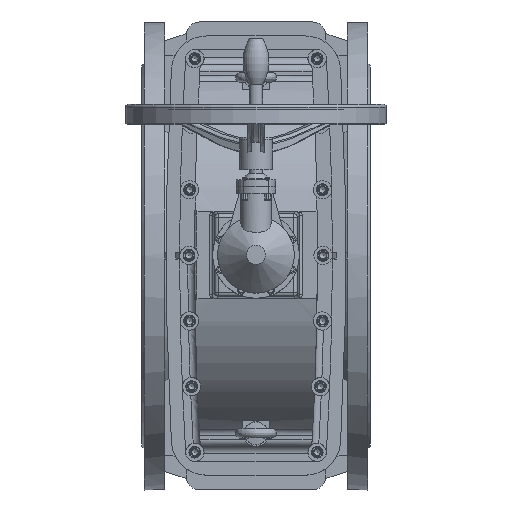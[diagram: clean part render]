
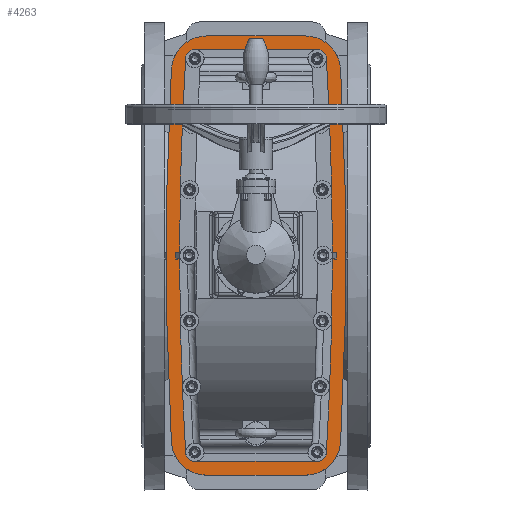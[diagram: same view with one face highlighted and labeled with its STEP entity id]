
A CAD part, top view. The second image highlights one B-rep face of the part: STEP entity #4263.
In plain terms, the highlighted planar face has unit normal (0, 0, 1).
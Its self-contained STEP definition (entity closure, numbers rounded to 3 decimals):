
#4263=ADVANCED_FACE('',(#11177,#11179),#11181,.T.);
#11177=FACE_BOUND('',#11178,.T.);
#11178=EDGE_LOOP('',(#32542,#32543,#32544,#32545,#32546,#32547,#32548,#32549));
#11179=FACE_BOUND('',#11180,.T.);
#11180=EDGE_LOOP('',(#32550,#32551,#32552,#32553,#32554,#32555,#32556,#32557,#32558,
#32559,#32560,#32561,#32562,#32563,#32564,#32565));
#11181=PLANE('',#11182);
#11182=AXIS2_PLACEMENT_3D('',#11183,#11184,#11185);
#11183=CARTESIAN_POINT('',(0.,0.,458.696));
#11184=DIRECTION('',(0.,0.,1.));
#11185=DIRECTION('',(-1.,0.,0.));
#32542=ORIENTED_EDGE('',*,*,#37260,.T.);
#32543=ORIENTED_EDGE('',*,*,#37258,.T.);
#32544=ORIENTED_EDGE('',*,*,#37256,.T.);
#32545=ORIENTED_EDGE('',*,*,#37254,.T.);
#32546=ORIENTED_EDGE('',*,*,#37252,.T.);
#32547=ORIENTED_EDGE('',*,*,#37250,.T.);
#32548=ORIENTED_EDGE('',*,*,#37248,.T.);
#32549=ORIENTED_EDGE('',*,*,#37246,.T.);
#32550=ORIENTED_EDGE('',*,*,#37273,.F.);
#32551=ORIENTED_EDGE('',*,*,#37274,.F.);
#32552=ORIENTED_EDGE('',*,*,#37275,.T.);
#32553=ORIENTED_EDGE('',*,*,#37276,.T.);
#32554=ORIENTED_EDGE('',*,*,#37277,.T.);
#32555=ORIENTED_EDGE('',*,*,#37278,.T.);
#32556=ORIENTED_EDGE('',*,*,#37279,.T.);
#32557=ORIENTED_EDGE('',*,*,#37280,.F.);
#32558=ORIENTED_EDGE('',*,*,#37281,.F.);
#32559=ORIENTED_EDGE('',*,*,#37282,.F.);
#32560=ORIENTED_EDGE('',*,*,#37283,.T.);
#32561=ORIENTED_EDGE('',*,*,#37284,.T.);
#32562=ORIENTED_EDGE('',*,*,#37285,.T.);
#32563=ORIENTED_EDGE('',*,*,#37286,.T.);
#32564=ORIENTED_EDGE('',*,*,#37287,.T.);
#32565=ORIENTED_EDGE('',*,*,#37288,.F.);
#37246=EDGE_CURVE('',#41156,#41154,#41157,.T.);
#37248=EDGE_CURVE('',#41159,#41156,#41160,.T.);
#37250=EDGE_CURVE('',#41162,#41159,#41163,.T.);
#37252=EDGE_CURVE('',#41165,#41162,#41166,.T.);
#37254=EDGE_CURVE('',#41168,#41165,#41169,.T.);
#37256=EDGE_CURVE('',#41171,#41168,#41172,.T.);
#37258=EDGE_CURVE('',#41174,#41171,#41175,.T.);
#37260=EDGE_CURVE('',#41154,#41174,#41177,.T.);
#37273=EDGE_CURVE('',#41198,#41199,#41200,.T.);
#37274=EDGE_CURVE('',#41201,#41198,#41202,.F.);
#37275=EDGE_CURVE('',#41201,#41203,#41204,.F.);
#37276=EDGE_CURVE('',#41203,#41205,#41206,.T.);
#37277=EDGE_CURVE('',#41205,#41207,#41208,.T.);
#37278=EDGE_CURVE('',#41207,#41209,#41210,.T.);
#37279=EDGE_CURVE('',#41209,#41211,#41212,.F.);
#37280=EDGE_CURVE('',#41213,#41211,#41214,.F.);
#37281=EDGE_CURVE('',#41215,#41213,#41216,.T.);
#37282=EDGE_CURVE('',#41217,#41215,#41218,.T.);
#37283=EDGE_CURVE('',#41217,#41219,#41220,.F.);
#37284=EDGE_CURVE('',#41219,#41221,#41222,.T.);
#37285=EDGE_CURVE('',#41221,#41223,#41224,.T.);
#37286=EDGE_CURVE('',#41223,#41225,#41226,.T.);
#37287=EDGE_CURVE('',#41225,#41227,#41228,.F.);
#37288=EDGE_CURVE('',#41199,#41227,#41229,.T.);
#41154=VERTEX_POINT('',#52839);
#41156=VERTEX_POINT('',#52843);
#41157=CIRCLE('',#52844,5051.444);
#41159=VERTEX_POINT('',#52851);
#41160=CIRCLE('',#52852,54.167);
#41162=VERTEX_POINT('',#52859);
#41163=LINE('',#52860,#52861);
#41165=VERTEX_POINT('',#52866);
#41166=CIRCLE('',#52867,54.167);
#41168=VERTEX_POINT('',#52874);
#41169=CIRCLE('',#52875,5051.444);
#41171=VERTEX_POINT('',#52882);
#41172=CIRCLE('',#52883,54.167);
#41174=VERTEX_POINT('',#52890);
#41175=LINE('',#52891,#52892);
#41177=CIRCLE('',#52897,54.167);
#41198=VERTEX_POINT('',#53161);
#41199=VERTEX_POINT('',#53162);
#41200=LINE('',#53163,#53164);
#41201=VERTEX_POINT('',#53166);
#41202=LINE('',#53167,#53168);
#41203=VERTEX_POINT('',#53170);
#41204=CIRCLE('',#53171,5007.777);
#41205=VERTEX_POINT('',#53175);
#41206=CIRCLE('',#53176,10.5);
#41207=VERTEX_POINT('',#53180);
#41208=LINE('',#53181,#53182);
#41209=VERTEX_POINT('',#53184);
#41210=CIRCLE('',#53185,10.5);
#41211=VERTEX_POINT('',#53189);
#41212=CIRCLE('',#53190,5007.777);
#41213=VERTEX_POINT('',#53194);
#41214=LINE('',#53195,#53196);
#41215=VERTEX_POINT('',#53198);
#41216=LINE('',#53199,#53200);
#41217=VERTEX_POINT('',#53202);
#41218=LINE('',#53203,#53204);
#41219=VERTEX_POINT('',#53206);
#41220=CIRCLE('',#53207,5007.777);
#41221=VERTEX_POINT('',#53211);
#41222=CIRCLE('',#53212,10.5);
#41223=VERTEX_POINT('',#53216);
#41224=LINE('',#53217,#53218);
#41225=VERTEX_POINT('',#53220);
#41226=CIRCLE('',#53221,10.5);
#41227=VERTEX_POINT('',#53225);
#41228=CIRCLE('',#53226,5007.777);
#41229=LINE('',#53230,#53231);
#52839=CARTESIAN_POINT('',(129.37,284.551,458.696));
#52843=CARTESIAN_POINT('',(129.37,-284.551,458.696));
#52844=AXIS2_PLACEMENT_3D('',#52845,#52846,#52847);
#52845=CARTESIAN_POINT('',(-4914.053,0.,458.696));
#52846=DIRECTION('',(0.,0.,1.));
#52847=DIRECTION('',(0.998,-0.056,0.));
#52851=CARTESIAN_POINT('',(75.29,-335.667,458.696));
#52852=AXIS2_PLACEMENT_3D('',#52853,#52854,#52855);
#52853=CARTESIAN_POINT('',(75.29,-281.5,458.696));
#52854=DIRECTION('',(0.,0.,1.));
#52855=DIRECTION('',(0.,-1.,0.));
#52859=CARTESIAN_POINT('',(-75.29,-335.667,458.696));
#52860=CARTESIAN_POINT('',(-75.29,-335.667,458.696));
#52861=VECTOR('',#52862,1.);
#52862=DIRECTION('',(1.,0.,0.));
#52866=CARTESIAN_POINT('',(-129.37,-284.551,458.696));
#52867=AXIS2_PLACEMENT_3D('',#52868,#52869,#52870);
#52868=CARTESIAN_POINT('',(-75.29,-281.5,458.696));
#52869=DIRECTION('',(0.,0.,1.));
#52870=DIRECTION('',(-0.998,-0.056,0.));
#52874=CARTESIAN_POINT('',(-129.37,284.551,458.696));
#52875=AXIS2_PLACEMENT_3D('',#52876,#52877,#52878);
#52876=CARTESIAN_POINT('',(4914.053,0.,458.696));
#52877=DIRECTION('',(0.,0.,1.));
#52878=DIRECTION('',(-0.998,0.056,0.));
#52882=CARTESIAN_POINT('',(-75.29,335.667,458.696));
#52883=AXIS2_PLACEMENT_3D('',#52884,#52885,#52886);
#52884=CARTESIAN_POINT('',(-75.29,281.5,458.696));
#52885=DIRECTION('',(0.,0.,1.));
#52886=DIRECTION('',(0.,1.,0.));
#52890=CARTESIAN_POINT('',(75.29,335.667,458.696));
#52891=CARTESIAN_POINT('',(75.29,335.667,458.696));
#52892=VECTOR('',#52893,1.);
#52893=DIRECTION('',(-1.,0.,0.));
#52897=AXIS2_PLACEMENT_3D('',#52898,#52899,#52900);
#52898=CARTESIAN_POINT('',(75.29,281.5,458.696));
#52899=DIRECTION('',(0.,0.,1.));
#52900=DIRECTION('',(0.998,0.056,0.));
#53161=CARTESIAN_POINT('',(-122.41,5.25,458.696));
#53162=CARTESIAN_POINT('',(-122.41,-5.25,458.696));
#53163=CARTESIAN_POINT('',(-122.41,5.25,458.696));
#53164=VECTOR('',#53165,1.);
#53165=DIRECTION('',(0.,-1.,0.));
#53166=CARTESIAN_POINT('',(-93.722,5.25,458.696));
#53167=CARTESIAN_POINT('',(-122.41,5.25,458.696));
#53168=VECTOR('',#53169,1.);
#53169=DIRECTION('',(1.,0.,0.));
#53170=CARTESIAN_POINT('',(-85.773,282.091,458.696));
#53171=AXIS2_PLACEMENT_3D('',#53172,#53173,#53174);
#53172=CARTESIAN_POINT('',(4914.053,0.,458.696));
#53173=DIRECTION('',(0.,0.,1.));
#53174=DIRECTION('',(-0.998,0.056,0.));
#53175=CARTESIAN_POINT('',(-75.29,292.,458.696));
#53176=AXIS2_PLACEMENT_3D('',#53177,#53178,#53179);
#53177=CARTESIAN_POINT('',(-75.29,281.5,458.696));
#53178=DIRECTION('',(0.,0.,-1.));
#53179=DIRECTION('',(-0.998,0.056,0.));
#53180=CARTESIAN_POINT('',(75.29,292.,458.696));
#53181=CARTESIAN_POINT('',(-75.29,292.,458.696));
#53182=VECTOR('',#53183,1.);
#53183=DIRECTION('',(1.,0.,0.));
#53184=CARTESIAN_POINT('',(85.773,282.091,458.696));
#53185=AXIS2_PLACEMENT_3D('',#53186,#53187,#53188);
#53186=CARTESIAN_POINT('',(75.29,281.5,458.696));
#53187=DIRECTION('',(0.,0.,-1.));
#53188=DIRECTION('',(0.,1.,0.));
#53189=CARTESIAN_POINT('',(93.722,5.25,458.696));
#53190=AXIS2_PLACEMENT_3D('',#53191,#53192,#53193);
#53191=CARTESIAN_POINT('',(-4914.053,0.,458.696));
#53192=DIRECTION('',(0.,0.,1.));
#53193=DIRECTION('',(1.,0.001,0.));
#53194=CARTESIAN_POINT('',(122.41,5.25,458.696));
#53195=CARTESIAN_POINT('',(93.722,5.25,458.696));
#53196=VECTOR('',#53197,1.);
#53197=DIRECTION('',(1.,0.,0.));
#53198=CARTESIAN_POINT('',(122.41,-5.25,458.696));
#53199=CARTESIAN_POINT('',(122.41,-5.25,458.696));
#53200=VECTOR('',#53201,1.);
#53201=DIRECTION('',(0.,1.,0.));
#53202=CARTESIAN_POINT('',(93.722,-5.25,458.696));
#53203=CARTESIAN_POINT('',(93.722,-5.25,458.696));
#53204=VECTOR('',#53205,1.);
#53205=DIRECTION('',(1.,0.,0.));
#53206=CARTESIAN_POINT('',(85.773,-282.091,458.696));
#53207=AXIS2_PLACEMENT_3D('',#53208,#53209,#53210);
#53208=CARTESIAN_POINT('',(-4914.053,0.,458.696));
#53209=DIRECTION('',(0.,0.,1.));
#53210=DIRECTION('',(0.998,-0.056,0.));
#53211=CARTESIAN_POINT('',(75.29,-292.,458.696));
#53212=AXIS2_PLACEMENT_3D('',#53213,#53214,#53215);
#53213=CARTESIAN_POINT('',(75.29,-281.5,458.696));
#53214=DIRECTION('',(0.,0.,-1.));
#53215=DIRECTION('',(0.998,-0.056,0.));
#53216=CARTESIAN_POINT('',(-75.29,-292.,458.696));
#53217=CARTESIAN_POINT('',(75.29,-292.,458.696));
#53218=VECTOR('',#53219,1.);
#53219=DIRECTION('',(-1.,0.,0.));
#53220=CARTESIAN_POINT('',(-85.773,-282.091,458.696));
#53221=AXIS2_PLACEMENT_3D('',#53222,#53223,#53224);
#53222=CARTESIAN_POINT('',(-75.29,-281.5,458.696));
#53223=DIRECTION('',(0.,0.,-1.));
#53224=DIRECTION('',(0.,-1.,0.));
#53225=CARTESIAN_POINT('',(-93.722,-5.25,458.696));
#53226=AXIS2_PLACEMENT_3D('',#53227,#53228,#53229);
#53227=CARTESIAN_POINT('',(4914.053,0.,458.696));
#53228=DIRECTION('',(0.,0.,1.));
#53229=DIRECTION('',(-1.,-0.001,0.));
#53230=CARTESIAN_POINT('',(-122.41,-5.25,458.696));
#53231=VECTOR('',#53232,1.);
#53232=DIRECTION('',(1.,0.,0.));
